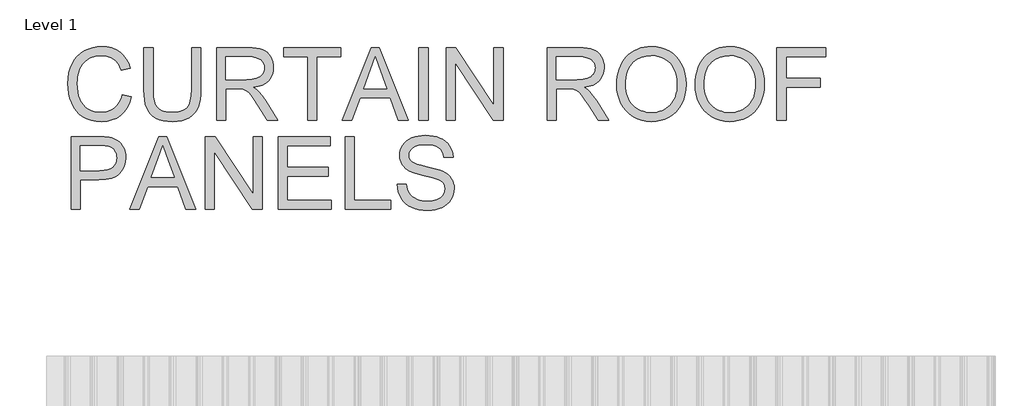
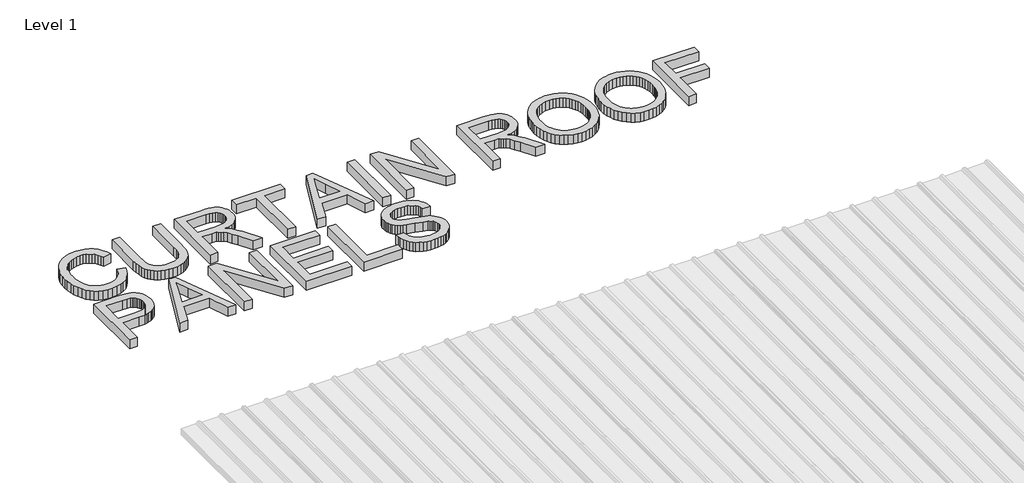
# One storey, part 21 of 27: 1 proxy.
"""IFC4 building model written with IfcOpenShell, lengths in millimetres."""

from ifc_helpers import new_model, si_unit, origin, origin_with_axes, place, context, project, spatial, polyline, outline, extrude, element, save

model = new_model("IFC4")

# Units and contexts
model_context = context("Model", 3, world=origin())
ifc_project = project(units=[si_unit("LENGTHUNIT", "METRE", prefix="MILLI")], contexts=[model_context])

# Site, building, storey
site = spatial("IfcSite", under=ifc_project)
building = spatial("IfcBuilding", under=site)
storey = spatial("IfcBuildingStorey", under=building, Name="Level 1", Elevation=0.0)

# Proxy
placement = place(None, origin())
element("IfcBuildingElementProxy", 1, Name="1000mm Arial", ObjectType="1000mm Arial", at=placement, inside=storey, context=model_context, shape_type="SweptSolid", body=[
    extrude(outline(polyline([(27256.4600579, -1649.2908698), (27378.8843003, -1680.8533698), (27354.6594838, -1756.98744), (27322.3945986, -1823.5122832), (27282.0896448, -1880.4278993), (27233.7446223, -1927.7342884), (27178.4504698, -1964.923342), (27117.2981261, -1991.4869517), (27050.2875911, -2007.4251176), (26977.4188647, -2012.7378395), (26902.7642867, -2008.7178052), (26835.4175035, -1996.6577022), (26775.3785149, -1976.5575306), (26722.6473212, -1948.4172903), (26676.4991204, -1912.6554236), (26636.2091109, -1869.6903727), (26601.7772928, -1819.5221376), (26573.2036659, -1762.1507183), (26550.764701, -1700.0568795), (26534.736869, -1635.7213859), (26525.1201698, -1569.1442375), (26521.9146034, -1500.3254342), (26525.538612, -1426.4853241), (26536.4106379, -1357.5170772), (26554.5306811, -1293.4206935), (26579.8987416, -1234.1961729), (26611.9469335, -1180.8223714), (26650.1073709, -1134.2781449), (26694.3800538, -1094.5634935), (26744.7649822, -1061.6784172), (26799.5510262, -1035.8919144), (26857.027056, -1017.4729839), (26917.1930716, -1006.4216256), (26980.0490731, -1002.7378395), (27050.0708978, -1007.5050921), (27114.2793643, -1021.8068499), (27172.6744726, -1045.643113), (27225.2562227, -1079.0138812), (27271.1578414, -1121.0374371), (27309.5125556, -1170.832063), (27340.3203651, -1228.397759), (27363.58127, -1293.7345251), (27241.1570276, -1322.9059266), (27221.8787961, -1274.7626531), (27198.7150295, -1233.628287), (27171.6657279, -1199.5028283), (27140.7308913, -1172.386277), (27105.7311872, -1151.7256917), (27066.4872833, -1136.9681307), (27022.9991796, -1128.1135941), (26975.2668761, -1125.1620819), (26920.3463328, -1128.434898), (26870.1183202, -1138.2533461), (26824.5828385, -1154.6174264), (26783.7398875, -1177.5271388), (26748.1050479, -1205.951322), (26718.1939002, -1238.8588149), (26694.0064446, -1276.2496175), (26675.542681, -1318.1237297), (26661.8910031, -1362.5832171), (26652.1398046, -1407.7301454), (26646.2890855, -1453.5645145), (26644.3388458, -1500.0863244), (26646.6477503, -1558.5486823), (26653.5744637, -1613.1852827), (26665.1189861, -1663.9961255), (26681.2813174, -1710.9812107), (26702.3229841, -1753.2065155), (26728.5055125, -1789.7380171), (26759.8289026, -1820.5757153), (26796.2931545, -1845.7196104), (26836.1273608, -1865.2294796), (26877.5606143, -1879.1651004), (26920.5929148, -1887.5264729), (26965.2242625, -1890.3135971), (27018.4486203, -1886.5177283), (27067.413834, -1875.1301217), (27112.1199034, -1856.1507775), (27152.5668288, -1829.5796956), (27187.7981705, -1795.5364309), (27216.8574893, -1754.1405384), (27239.7447851, -1705.392018), (27256.4600579, -1649.2908698)])), origin_with_axes(), (0.0, 0.0, 1.0), 150.0),
    extrude(outline(polyline([(28189.9449064, -1018.0408698), (28312.3691488, -1018.0408698), (28312.3691488, -1583.0574418), (28310.291882, -1653.019489), (28304.0600816, -1715.3748542), (28293.6737475, -1770.1235373), (28279.1328799, -1817.2655384), (28259.1821519, -1858.5867091), (28232.5662369, -1895.8729011), (28199.2851349, -1929.1241144), (28159.3388458, -1958.340349), (28112.6825366, -1982.1392511), (28059.2713742, -1999.1384669), (27999.1053586, -2009.3379964), (27932.1844897, -2012.7378395), (27866.9149733, -2009.7788551), (27807.8772573, -2000.901902), (27755.0713417, -1986.1069801), (27708.4972265, -1965.3940895), (27668.1474395, -1939.0695896), (27634.0145087, -1907.43984), (27606.0984339, -1870.5048406), (27584.3992151, -1828.2645914), (27568.1322732, -1779.269489), (27556.513029, -1722.06993), (27549.5414825, -1656.6659142), (27547.2176337, -1583.0574418), (27547.2176337, -1018.0408698), (27669.6418761, -1018.0408698), (27669.6418761, -1578.7534645), (27671.151257, -1637.9406242), (27675.6793998, -1688.7738836), (27683.2263044, -1731.2532426), (27693.7919708, -1765.3787013), (27708.0339511, -1793.6160799), (27726.6097975, -1818.4311989), (27749.5195099, -1839.8240582), (27776.7630882, -1857.7946577), (27807.8174798, -1872.0216937), (27842.1596318, -1882.1838622), (27879.7895442, -1888.2811634), (27920.707217, -1890.3135971), (27988.1810274, -1886.2935628), (28045.2236706, -1874.2334598), (28091.8351467, -1854.1332881), (28111.2291971, -1841.0681766), (28128.0154556, -1825.9930479), (28142.5301707, -1808.0598092), (28155.1095904, -1786.4203679), (28174.4625437, -1732.0228774), (28186.0743157, -1662.8005763), (28189.9449064, -1578.7534645), (28189.9449064, -1018.0408698)])), origin_with_axes(), (0.0, 0.0, 1.0), 150.0),
    extrude(outline(polyline([(28526.6115731, -1997.4348092), (28526.6115731, -1018.0408698), (28948.6404556, -1018.0408698), (29009.2174413, -1019.6922222), (29062.06819, -1024.6462794), (29107.1927017, -1032.9030413), (29144.5909765, -1044.4625081), (29176.4374194, -1060.2138694), (29204.9064358, -1081.0463149), (29229.9980255, -1106.9598447), (29251.7121886, -1137.9544588), (29269.2344572, -1172.3638605), (29281.7503633, -1208.5217529), (29289.259907, -1246.428136), (29291.7630882, -1286.08301), (29287.6160268, -1336.3857444), (29275.1748425, -1382.5638338), (29254.4395353, -1424.6172784), (29225.4101053, -1462.5460782), (29187.7129432, -1495.1397394), (29140.97444, -1521.1877685), (29085.1945957, -1540.6901655), (29020.3734102, -1553.6469304), (29060.7231971, -1580.0087912), (29089.9543761, -1606.0119872), (29140.1076668, -1665.4905621), (29189.1849632, -1732.0228774), (29352.4969897, -1997.4348092), (29210.2266299, -1997.4348092), (29082.7810806, -1794.4305479), (29031.7909055, -1716.9589569), (28990.723789, -1660.050813), (28956.5011919, -1620.8666866), (28926.044575, -1596.5671482), (28897.2019495, -1582.3102235), (28867.8213269, -1573.253938), (28796.8057019, -1568.9499607), (28649.0358155, -1568.9499607), (28649.0358155, -1997.4348092), (28526.6115731, -1997.4348092)]), holes=[polyline([(28649.0358155, -1446.5257183), (28923.0557019, -1446.5257183), (29001.7527307, -1442.1918523), (29062.8154083, -1429.1902543), (29087.3690009, -1419.2223625), (29108.7842767, -1406.6541511), (29127.0612357, -1391.4856201), (29142.199878, -1373.7167694), (29154.0731764, -1354.2218446), (29162.5541038, -1333.8750909), (29167.6426603, -1312.6765084), (29169.3388458, -1290.6260971), (29166.1033907, -1259.3176513), (29156.3970252, -1230.9084124), (29140.2197496, -1205.3983805), (29117.5715636, -1182.7875554), (29087.9294146, -1164.2714865), (29050.7702497, -1151.045723), (29006.0940689, -1143.1102649), (28953.9008723, -1140.4651122), (28649.0358155, -1140.4651122), (28649.0358155, -1446.5257183)])]), origin_with_axes(), (0.0, 0.0, 1.0), 150.0),
    extrude(outline(polyline([(29750.8539973, -1997.4348092), (29750.8539973, -1140.4651122), (29429.4903609, -1140.4651122), (29429.4903609, -1018.0408698), (30194.6418761, -1018.0408698), (30194.6418761, -1140.4651122), (29873.2782397, -1140.4651122), (29873.2782397, -1997.4348092), (29750.8539973, -1997.4348092)])), origin_with_axes(), (0.0, 0.0, 1.0), 150.0),
    extrude(outline(polyline([(30218.3137511, -1997.4348092), (30609.2583534, -1018.0408698), (30713.5102473, -1018.0408698), (31104.4548496, -1997.4348092), (30975.0964216, -1997.4348092), (30862.9539026, -1691.3742032), (30459.5755882, -1691.3742032), (30347.6721791, -1997.4348092), (30218.3137511, -1997.4348092)]), holes=[polyline([(30504.5282397, -1568.9499607), (30818.2403609, -1568.9499607), (30730.0088269, -1328.1663433), (30661.3843003, -1140.4651122), (30600.411289, -1307.1246766), (30504.5282397, -1568.9499607)])]), origin_with_axes(), (0.0, 0.0, 1.0), 150.0),
    extrude(outline(polyline([(31250.550967, -1997.4348092), (31250.550967, -1018.0408698), (31372.9752094, -1018.0408698), (31372.9752094, -1997.4348092), (31250.550967, -1997.4348092)])), origin_with_axes(), (0.0, 0.0, 1.0), 150.0),
    extrude(outline(polyline([(31617.8236943, -1997.4348092), (31617.8236943, -1018.0408698), (31748.8558913, -1018.0408698), (32260.550967, -1793.9523282), (32260.550967, -1018.0408698), (32382.9752094, -1018.0408698), (32382.9752094, -1997.4348092), (32251.9430125, -1997.4348092), (31740.2479367, -1221.284241), (31740.2479367, -1997.4348092), (31617.8236943, -1997.4348092)])), origin_with_axes(), (0.0, 0.0, 1.0), 150.0),
    extrude(outline(polyline([(32979.7933913, -1997.4348092), (32979.7933913, -1018.0408698), (33401.8222738, -1018.0408698), (33462.3992595, -1019.6922222), (33515.2500082, -1024.6462794), (33560.3745199, -1032.9030413), (33597.7727947, -1044.4625081), (33629.6192376, -1060.2138694), (33658.0882539, -1081.0463149), (33683.1798437, -1106.9598447), (33704.8940068, -1137.9544588), (33722.4162754, -1172.3638605), (33734.9321815, -1208.5217529), (33742.4417252, -1246.428136), (33744.9449064, -1286.08301), (33740.797845, -1336.3857444), (33728.3566607, -1382.5638338), (33707.6213535, -1424.6172784), (33678.5919234, -1462.5460782), (33640.8947614, -1495.1397394), (33594.1562582, -1521.1877685), (33538.3764139, -1540.6901655), (33473.5552284, -1553.6469304), (33513.9050153, -1580.0087912), (33543.1361943, -1606.0119872), (33593.289485, -1665.4905621), (33642.3667814, -1732.0228774), (33805.6788079, -1997.4348092), (33663.4084481, -1997.4348092), (33535.9628988, -1794.4305479), (33484.9727236, -1716.9589569), (33443.9056072, -1660.050813), (33409.6830101, -1620.8666866), (33379.2263931, -1596.5671482), (33350.3837677, -1582.3102235), (33321.003145, -1573.253938), (33249.98752, -1568.9499607), (33102.2176337, -1568.9499607), (33102.2176337, -1997.4348092), (32979.7933913, -1997.4348092)]), holes=[polyline([(33102.2176337, -1446.5257183), (33376.23752, -1446.5257183), (33454.9345489, -1442.1918523), (33515.9972265, -1429.1902543), (33540.550819, -1419.2223625), (33561.9660948, -1406.6541511), (33580.2430539, -1391.4856201), (33595.3816962, -1373.7167694), (33607.2549946, -1354.2218446), (33615.735922, -1333.8750909), (33620.8244785, -1312.6765084), (33622.520664, -1290.6260971), (33619.2852088, -1259.3176513), (33609.5788434, -1230.9084124), (33593.4015677, -1205.3983805), (33570.7533818, -1182.7875554), (33541.1112328, -1164.2714865), (33503.9520679, -1151.045723), (33459.2758871, -1143.1102649), (33407.0826905, -1140.4651122), (33102.2176337, -1140.4651122), (33102.2176337, -1446.5257183)])]), origin_with_axes(), (0.0, 0.0, 1.0), 150.0),
    extrude(outline(polyline([(33913.2782397, -1520.6497713), (33915.3181456, -1461.5634861), (33921.4378633, -1405.7724335), (33931.6373928, -1353.2766135), (33945.9167341, -1304.0760261), (33964.2758871, -1258.1706713), (33986.714852, -1215.560549), (34013.2336286, -1176.2456594), (34043.832217, -1140.2260024), (34077.6550523, -1108.0022142), (34113.8465695, -1080.0749311), (34152.4067687, -1056.4441531), (34193.3356498, -1037.1098802), (34236.6332128, -1022.0721124), (34282.2994578, -1011.3308497), (34330.3343847, -1004.8860921), (34380.7379935, -1002.7378395), (34446.6277011, -1006.7728182), (34509.1997596, -1018.8777543), (34568.454169, -1039.0526478), (34624.3909291, -1067.2974986), (34675.4408818, -1102.760478), (34720.0348685, -1144.5897571), (34758.1728894, -1192.785336), (34789.8549443, -1247.3472145), (34814.7522573, -1307.0350104), (34832.5360522, -1370.6083414), (34843.2063292, -1438.0672074), (34846.7630882, -1509.4116085), (34843.0195247, -1581.6975045), (34831.788834, -1650.0679768), (34813.0710161, -1714.5230254), (34786.8660712, -1775.0626501), (34753.7941903, -1830.087804), (34714.4755645, -1877.9994399), (34668.910194, -1918.7975578), (34617.0980788, -1952.4821577), (34561.0791246, -1978.8440185), (34502.8932374, -1997.6739191), (34442.5404172, -2008.9718594), (34380.020664, -2012.7378395), (34312.9802402, -2008.5758337), (34249.5862416, -1996.0898163), (34189.8386682, -1975.2797873), (34133.73752, -1946.1457467), (34082.7473448, -1909.8159941), (34038.3326905, -1867.4188291), (34000.493557, -1818.9542517), (33969.2299443, -1764.4222619), (33944.7510735, -1706.0122092), (33927.2661659, -1645.9134432), (33916.7752213, -1584.1259639), (33913.2782397, -1520.6497713)]), holes=[polyline([(34035.7024822, -1521.8453206), (34037.2324116, -1563.5662531), (34041.8221998, -1603.0081698), (34049.471847, -1640.1710708), (34060.1813529, -1675.054956), (34073.9507177, -1707.6598255), (34090.7799413, -1737.9856792), (34110.6690238, -1766.0325173), (34133.6179651, -1791.8003395), (34158.8758109, -1814.8893843), (34185.6916068, -1834.8998897), (34214.0653528, -1851.8318559), (34243.9970489, -1865.6852827), (34275.4866951, -1876.4601703), (34308.5342915, -1884.1565185), (34343.1398379, -1888.7743274), (34379.3033344, -1890.3135971), (34416.1281191, -1888.7593831), (34451.282871, -1884.096741), (34484.76759, -1876.325671), (34516.5822762, -1865.4461729), (34546.7269295, -1851.4582467), (34575.20155, -1834.3618926), (34602.0061376, -1814.1571104), (34627.1406924, -1790.8439001), (34649.9215096, -1764.67258), (34669.6648845, -1735.8934681), (34686.3708171, -1704.5065644), (34700.0393074, -1670.5118689), (34710.6703555, -1633.9093816), (34718.2639612, -1594.6991025), (34722.8201246, -1552.8810317), (34724.3388458, -1508.4551691), (34721.7385262, -1452.4287427), (34713.9375674, -1400.0786302), (34700.9359694, -1351.4048317), (34682.7337322, -1306.4073471), (34659.5326047, -1265.6764788), (34631.5343359, -1229.8025294), (34598.7389257, -1198.7854987), (34561.1463742, -1172.6253869), (34519.9223419, -1151.860191), (34476.2324893, -1137.0279082), (34430.0768163, -1128.1285385), (34381.4553231, -1125.1620819), (34313.1446282, -1130.8783018), (34249.765574, -1148.0269612), (34191.3181604, -1176.6080603), (34137.8023875, -1216.621599), (34113.8727222, -1241.397489), (34093.1336789, -1269.9954005), (34075.5852577, -1302.4153335), (34061.2274585, -1338.6572879), (34050.0602813, -1378.7212639), (34042.0837262, -1422.6072613), (34037.2977932, -1470.3152802), (34035.7024822, -1521.8453206)])]), origin_with_axes(), (0.0, 0.0, 1.0), 150.0),
    extrude(outline(polyline([(34969.1873306, -1520.6497713), (34971.2272365, -1461.5634861), (34977.3469542, -1405.7724335), (34987.5464837, -1353.2766135), (35001.825825, -1304.0760261), (35020.184978, -1258.1706713), (35042.6239429, -1215.560549), (35069.1427195, -1176.2456594), (35099.7413079, -1140.2260024), (35133.5641432, -1108.0022142), (35169.7556604, -1080.0749311), (35208.3158596, -1056.4441531), (35249.2447407, -1037.1098802), (35292.5423037, -1022.0721124), (35338.2085487, -1011.3308497), (35386.2434756, -1004.8860921), (35436.6470844, -1002.7378395), (35502.5367921, -1006.7728182), (35565.1088505, -1018.8777543), (35624.3632599, -1039.0526478), (35680.30002, -1067.2974986), (35731.3499727, -1102.760478), (35775.9439594, -1144.5897571), (35814.0819803, -1192.785336), (35845.7640352, -1247.3472145), (35870.6613482, -1307.0350104), (35888.4451431, -1370.6083414), (35899.1154201, -1438.0672074), (35902.6721791, -1509.4116085), (35898.9286156, -1581.6975045), (35887.6979249, -1650.0679768), (35868.980107, -1714.5230254), (35842.7751621, -1775.0626501), (35809.7032812, -1830.087804), (35770.3846555, -1877.9994399), (35724.819285, -1918.7975578), (35673.0071697, -1952.4821577), (35616.9882155, -1978.8440185), (35558.8023283, -1997.6739191), (35498.4495081, -2008.9718594), (35435.9297549, -2012.7378395), (35368.8893311, -2008.5758337), (35305.4953325, -1996.0898163), (35245.7477591, -1975.2797873), (35189.6466109, -1946.1457467), (35138.6564358, -1909.8159941), (35094.2417814, -1867.4188291), (35056.4026479, -1818.9542517), (35025.1390352, -1764.4222619), (35000.6601645, -1706.0122092), (34983.1752568, -1645.9134432), (34972.6843122, -1584.1259639), (34969.1873306, -1520.6497713)]), holes=[polyline([(35091.6115731, -1521.8453206), (35093.1415025, -1563.5662531), (35097.7312908, -1603.0081698), (35105.3809379, -1640.1710708), (35116.0904438, -1675.054956), (35129.8598086, -1707.6598255), (35146.6890322, -1737.9856792), (35166.5781147, -1766.0325173), (35189.527056, -1791.8003395), (35214.7849018, -1814.8893843), (35241.6006977, -1834.8998897), (35269.9744437, -1851.8318559), (35299.9061398, -1865.6852827), (35331.395786, -1876.4601703), (35364.4433824, -1884.1565185), (35399.0489288, -1888.7743274), (35435.2124253, -1890.3135971), (35472.0372101, -1888.7593831), (35507.1919619, -1884.096741), (35540.6766809, -1876.325671), (35572.4913671, -1865.4461729), (35602.6360204, -1851.4582467), (35631.1106409, -1834.3618926), (35657.9152285, -1814.1571104), (35683.0497833, -1790.8439001), (35705.8306005, -1764.67258), (35725.5739754, -1735.8934681), (35742.279908, -1704.5065644), (35755.9483984, -1670.5118689), (35766.5794464, -1633.9093816), (35774.1730521, -1594.6991025), (35778.7292156, -1552.8810317), (35780.2479367, -1508.4551691), (35777.6476171, -1452.4287427), (35769.8466583, -1400.0786302), (35756.8450603, -1351.4048317), (35738.6428231, -1306.4073471), (35715.4416956, -1265.6764788), (35687.4434268, -1229.8025294), (35654.6480166, -1198.7854987), (35617.0554651, -1172.6253869), (35575.8314328, -1151.860191), (35532.1415802, -1137.0279082), (35485.9859072, -1128.1285385), (35437.364414, -1125.1620819), (35369.0537191, -1130.8783018), (35305.6746649, -1148.0269612), (35247.2272513, -1176.6080603), (35193.7114784, -1216.621599), (35169.7818131, -1241.397489), (35149.0427698, -1269.9954005), (35131.4943486, -1302.4153335), (35117.1365494, -1338.6572879), (35105.9693723, -1378.7212639), (35097.9928172, -1422.6072613), (35093.2068841, -1470.3152802), (35091.6115731, -1521.8453206)])]), origin_with_axes(), (0.0, 0.0, 1.0), 150.0),
    extrude(outline(polyline([(36071.0055125, -1997.4348092), (36071.0055125, -1018.0408698), (36729.0358155, -1018.0408698), (36729.0358155, -1140.4651122), (36193.4297549, -1140.4651122), (36193.4297549, -1431.222688), (36652.520664, -1431.222688), (36652.520664, -1553.6469304), (36193.4297549, -1553.6469304), (36193.4297549, -1997.4348092), (36071.0055125, -1997.4348092)])), origin_with_axes(), (0.0, 0.0, 1.0), 150.0),
    extrude(outline(polyline([(26567.8236943, -3194.4045062), (26567.8236943, -2215.0105668), (26930.7924443, -2215.0105668), (27015.3177757, -2217.3418878), (27077.1276716, -2224.3358509), (27111.1933528, -2231.6810065), (27142.3747715, -2241.7609811), (27170.6719276, -2254.5757745), (27196.0848212, -2270.1253869), (27218.8824508, -2288.731122), (27239.333815, -2310.7142836), (27257.4389139, -2336.074872), (27273.1977473, -2364.8128869), (27285.9602355, -2395.9793612), (27295.0762984, -2428.6253277), (27300.5459362, -2462.7507864), (27302.3691488, -2498.3557372), (27297.4449804, -2558.4769198), (27282.6724751, -2613.7860166), (27258.0516328, -2664.2830277), (27223.5824538, -2709.9679532), (27201.9037835, -2730.2549294), (27176.2611203, -2747.8369754), (27146.6544641, -2762.7140913), (27113.083815, -2774.886277), (27075.5491729, -2784.3535326), (27034.0505379, -2791.115858), (26939.161289, -2796.5257183), (26690.2479367, -2796.5257183), (26690.2479367, -3194.4045062), (26567.8236943, -3194.4045062)]), holes=[polyline([(26690.2479367, -2674.1014759), (26946.3345844, -2674.1014759), (27005.2153846, -2671.2919352), (27054.8904556, -2662.863313), (27095.3597975, -2648.8156094), (27126.6234102, -2629.1488244), (27149.9515648, -2604.3860107), (27166.6145323, -2575.0502211), (27176.6123129, -2541.1414558), (27179.9449064, -2502.6597145), (27177.9797223, -2474.0860876), (27172.0841701, -2447.6644494), (27162.2582498, -2423.3947997), (27148.5019613, -2401.2771388), (27131.5475786, -2382.028796), (27112.1273756, -2366.3671009), (27090.2413523, -2354.2920535), (27065.8895087, -2345.8036539), (27018.6653136, -2339.5270204), (26943.4652663, -2337.4348092), (26690.2479367, -2337.4348092), (26690.2479367, -2674.1014759)])]), origin_with_axes(), (0.0, 0.0, 1.0), 150.0),
    extrude(outline(polyline([(27356.6470844, -3194.4045062), (27747.5916867, -2215.0105668), (27851.8435806, -2215.0105668), (28242.7881829, -3194.4045062), (28113.4297549, -3194.4045062), (28001.2872359, -2888.3439001), (27597.9089216, -2888.3439001), (27486.0055125, -3194.4045062), (27356.6470844, -3194.4045062)]), holes=[polyline([(27642.8615731, -2765.9196577), (27956.5736943, -2765.9196577), (27868.3421602, -2525.1360403), (27799.7176337, -2337.4348092), (27738.7446223, -2504.0943736), (27642.8615731, -2765.9196577)])]), origin_with_axes(), (0.0, 0.0, 1.0), 150.0),
    extrude(outline(polyline([(28373.58127, -3194.4045062), (28373.58127, -2215.0105668), (28504.613467, -2215.0105668), (29016.3085428, -2990.9220251), (29016.3085428, -2215.0105668), (29138.7327852, -2215.0105668), (29138.7327852, -3194.4045062), (29007.7005882, -3194.4045062), (28496.0055125, -2418.253938), (28496.0055125, -3194.4045062), (28373.58127, -3194.4045062)])), origin_with_axes(), (0.0, 0.0, 1.0), 150.0),
    extrude(outline(polyline([(29352.9752094, -3194.4045062), (29352.9752094, -2215.0105668), (30056.9146034, -2215.0105668), (30056.9146034, -2337.4348092), (29475.3994519, -2337.4348092), (29475.3994519, -2628.192385), (30026.3085428, -2628.192385), (30026.3085428, -2750.6166274), (29475.3994519, -2750.6166274), (29475.3994519, -3071.9802638), (30072.2176337, -3071.9802638), (30072.2176337, -3194.4045062), (29352.9752094, -3194.4045062)])), origin_with_axes(), (0.0, 0.0, 1.0), 150.0),
    extrude(outline(polyline([(30255.8539973, -3194.4045062), (30255.8539973, -2215.0105668), (30378.2782397, -2215.0105668), (30378.2782397, -3071.9802638), (30867.9752094, -3071.9802638), (30867.9752094, -3194.4045062), (30255.8539973, -3194.4045062)])), origin_with_axes(), (0.0, 0.0, 1.0), 150.0),
    extrude(outline(polyline([(30959.7933913, -2857.7378395), (31082.2176337, -2857.7378395), (31087.8217707, -2893.3726791), (31096.2653373, -2925.6749252), (31107.5483332, -2954.6445778), (31121.6707587, -2980.2816369), (31139.3499431, -3003.101683), (31161.3032161, -3023.6202969), (31187.5305776, -3041.8374785), (31218.0320276, -3057.7532278), (31251.6867388, -3070.6726318), (31287.3738837, -3079.9007775), (31325.0934623, -3085.4376649), (31364.8454746, -3087.2832941), (31433.0515589, -3081.6941014), (31463.9714511, -3074.7076105), (31492.7692435, -3064.9265232), (31518.7350786, -3052.7020322), (31541.1590991, -3038.3853301), (31560.041305, -3021.9764167), (31575.3816962, -3003.4752922), (31587.2549946, -2983.68148), (31595.735922, -2963.3945038), (31600.8244785, -2942.6143636), (31602.520664, -2921.3410592), (31597.4395797, -2880.3636089), (31582.1963269, -2844.9454626), (31569.3740612, -2829.2314623), (31551.2316015, -2814.7279555), (31527.7689476, -2801.4349424), (31498.9860996, -2789.3524229), (31434.3367743, -2770.1339688), (31320.7297075, -2742.6064475), (31203.7153254, -2711.6716108), (31161.0118009, -2696.7646062), (31128.8440541, -2682.2312107), (31096.1532545, -2662.7288137), (31067.9009315, -2641.0445393), (31044.087085, -2617.1783876), (31024.7117151, -2591.1303585), (31009.7000999, -2563.1694506), (30998.9775177, -2533.5646624), (30992.5439683, -2502.3159941), (30990.3994519, -2469.4234456), (30993.0520767, -2432.9666659), (31001.0099514, -2397.7203798), (31014.2730758, -2363.6845873), (31032.84145, -2330.8592884), (31056.5058528, -2300.5820038), (31085.0570631, -2274.1902543), (31118.495081, -2251.6840398), (31156.8199064, -2233.0633604), (31198.7388517, -2218.4701874), (31242.9592293, -2208.0464925), (31289.4810392, -2201.7922755), (31338.3042814, -2199.7075365), (31391.5660002, -2201.8894139), (31441.5997359, -2208.435046), (31488.4054888, -2219.3444328), (31531.9832587, -2234.6175744), (31571.5260499, -2254.1199714), (31606.2268666, -2277.7171246), (31636.085709, -2305.4090339), (31661.1025769, -2337.1956994), (31681.0831936, -2372.1505703), (31695.8332823, -2409.3470961), (31705.3528432, -2448.7852768), (31709.6418761, -2490.4651122), (31587.2176337, -2490.4651122), (31579.0281214, -2451.4005408), (31564.7413079, -2417.4170535), (31544.3571933, -2388.5146506), (31517.8757776, -2364.6933319), (31484.8038967, -2346.0726525), (31444.6483865, -2332.7721672), (31397.4092471, -2324.791876), (31343.0864784, -2322.1317789), (31287.0301633, -2324.7619872), (31239.1334717, -2332.6526122), (31199.3964038, -2345.8036539), (31167.8189594, -2364.2151122), (31143.7585309, -2386.3477176), (31126.5725106, -2410.6622003), (31116.2608984, -2437.1585604), (31112.8236943, -2465.8367979), (31115.2596259, -2490.5099453), (31122.5674206, -2512.8816605), (31134.7470785, -2532.9519435), (31151.7985996, -2550.7207941), (31178.6386801, -2567.5481497), (31220.9013458, -2584.5548376), (31278.5865967, -2601.740858), (31351.6944329, -2619.1062107), (31486.6719424, -2651.9240374), (31534.165136, -2666.7637924), (31568.3279556, -2680.5574418), (31605.8607297, -2701.4646092), (31638.1181427, -2724.9720961), (31665.1001946, -2751.0799027), (31686.8068856, -2779.7880289), (31703.4922697, -2810.947031), (31715.4104012, -2844.4074655), (31722.5612801, -2880.1693322), (31724.9449064, -2918.2326312), (31722.2026153, -2956.5275679), (31713.9757421, -2993.7016771), (31700.2642867, -3029.754959), (31681.0682492, -3064.6874134), (31656.7238778, -3097.1465753), (31627.5674206, -3125.7799797), (31593.5988778, -3150.5876265), (31554.8182492, -3171.5695157), (31512.3538346, -3188.2548998), (31467.3339334, -3200.1730313), (31419.7585457, -3207.3239102), (31369.6276716, -3209.7075365), (31307.0033078, -3207.1371056), (31249.6841938, -3199.425813), (31197.6703296, -3186.5736586), (31150.9617151, -3168.5806426), (31109.2744075, -3145.416876), (31072.3244637, -3117.0524702), (31040.1118838, -3083.4874252), (31012.6366678, -3044.721741), (30990.5040624, -3002.0107444), (30974.3193145, -2956.6097619), (30964.0824242, -2908.5187936), (30959.7933913, -2857.7378395)])), origin_with_axes(), (0.0, 0.0, 1.0), 150.0),
])

save(model, "model.ifc")
